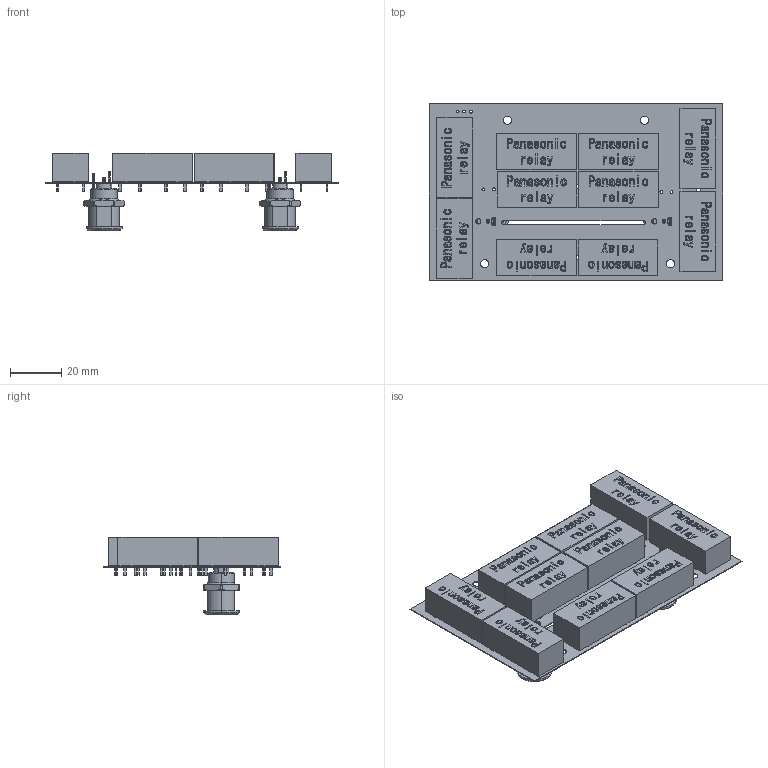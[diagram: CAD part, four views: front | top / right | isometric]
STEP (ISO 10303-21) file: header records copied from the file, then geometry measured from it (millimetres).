
FILE_DESCRIPTION(('Open CASCADE Model'),'2;1');
FILE_NAME('Open CASCADE Shape Model','2026-09-16T11:23:41',('Author'),( 'Open CASCADE'),'Open CASCADE STEP processor 7.5','Open CASCADE 7.5' ,'Unknown');
FILE_SCHEMA(('AUTOMOTIVE_DESIGN { 1 0 10303 214 1 1 1 1 }'));
Length unit declared in the file: millimetre
Products named in the file (19): PCB; Board; Open CASCADE STEP translator 7.5 3.1.1; HV; ern_1s_650_ctl; Open CASCADE STEP translator 7.5 3.2.1.1; Open CASCADE STEP translator 7.5 3.2.1.2; K10; ST1-L2-DC5V-F; K9; K8; K7; K6; K5; K4; K3; K2; K1; CH_A
Assembly tree (28 placements, depth 4):
  PCB
    Board
      Open CASCADE STEP translator 7.5 3.1.1
    HV
      ern_1s_650_ctl
        Open CASCADE STEP translator 7.5 3.2.1.1
        Open CASCADE STEP translator 7.5 3.2.1.2
    K10
      ST1-L2-DC5V-F
    K9
      ST1-L2-DC5V-F
    K8
      ST1-L2-DC5V-F
    K7
      ST1-L2-DC5V-F
    K6
      ST1-L2-DC5V-F
    K5
      ST1-L2-DC5V-F
    K4
      ST1-L2-DC5V-F
    K3
      ST1-L2-DC5V-F
    K2
      ST1-L2-DC5V-F
    K1
      ST1-L2-DC5V-F
    CH_A
      ern_1s_650_ctl
        Open CASCADE STEP translator 7.5 3.2.1.1
        Open CASCADE STEP translator 7.5 3.2.1.2
Bounding box: 114.3 x 68.58 x 30.16 mm (x, y, z)
Volume: 54290.9 mm3; surface area: 36963.7 mm2
Topology: 15 solids, 15 shells, 3423 faces, 9235 edges, 6138 vertices
Faces by surface type: bspline 1710, plane 1398, cylinder 255, cone 60
Full cylindrical faces by diameter (mm): 1.118 x7, 1.396 x80, 1.422 x2, 2.082 x2, 3.252 x4
Entity records: 22645 total; most frequent: CARTESIAN_POINT 9360, ORIENTED_EDGE 2892, DIRECTION 2177, EDGE_CURVE 1446, VERTEX_POINT 956, FACE_BOUND 772, EDGE_LOOP 772, LINE 735
